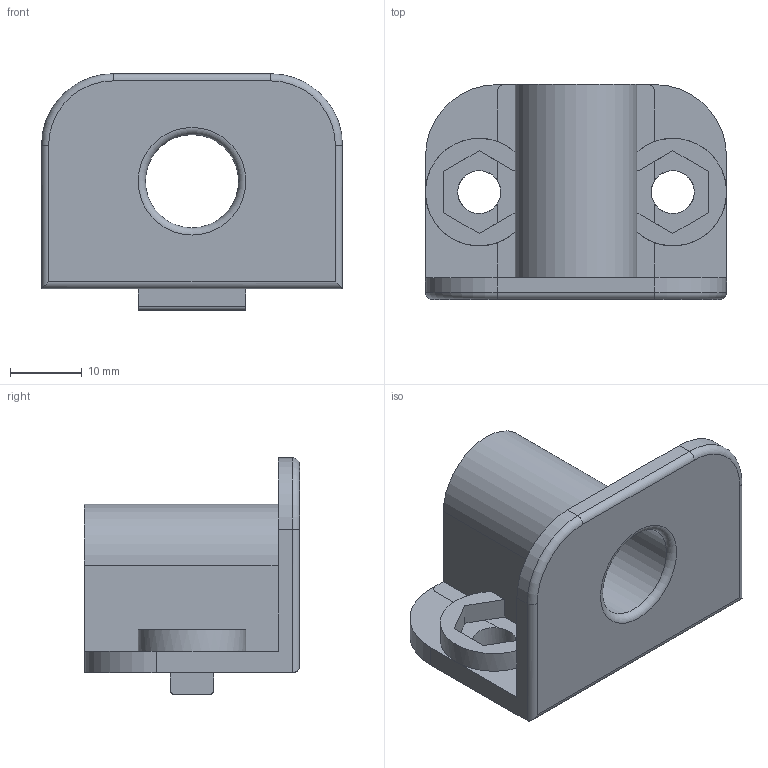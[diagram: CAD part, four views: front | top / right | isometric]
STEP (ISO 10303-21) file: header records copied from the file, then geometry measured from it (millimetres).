
FILE_DESCRIPTION(/* description */ (''),/* implementation_level */ '2;1');
FILE_NAME(/* name */ 'Tubing cut-out.step',/* time_stamp */ '2025-06-07T13:32:12-07:00',/* author */ (''),/* organization */ (''),/* preprocessor_version */ 'ST-DEVELOPER v20.1',/* originating_system */ 'Autodesk Translation Framework v14.10.0.0',/* authorisation */ '');
FILE_SCHEMA (('AUTOMOTIVE_DESIGN { 1 0 10303 214 3 1 1 }'));
Length unit declared in the file: millimetre
Products named in the file (1): Tubing cut-out
Bounding box: 42 x 30 x 33 mm (x, y, z)
Volume: 11981.2 mm3; surface area: 7426.3 mm2
Topology: 1 solids, 1 shells, 142 faces, 396 edges, 262 vertices
Faces by surface type: plane 76, bspline 46, cylinder 16, torus 4
Full cylindrical faces by diameter (mm): 6 x2, 13 x1
Entity records: 5007 total; most frequent: CARTESIAN_POINT 1583, ORIENTED_EDGE 792, DIRECTION 548, EDGE_CURVE 396, VERTEX_POINT 262, LINE 254, VECTOR 254, EDGE_LOOP 154
